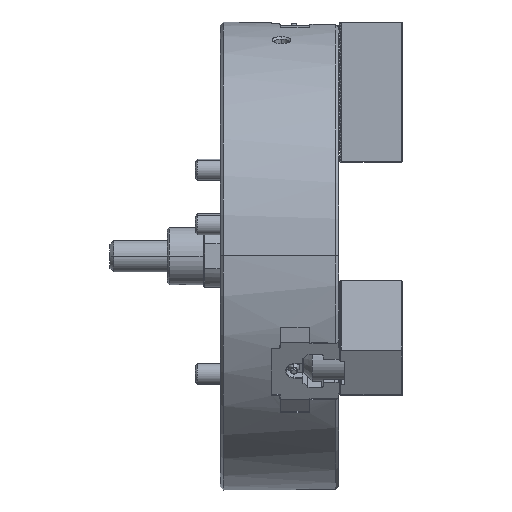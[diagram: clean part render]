
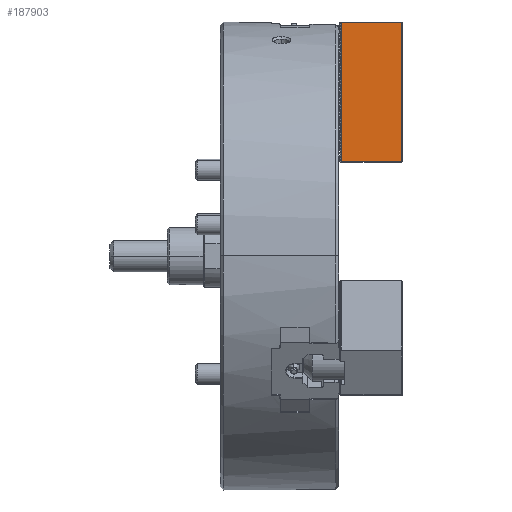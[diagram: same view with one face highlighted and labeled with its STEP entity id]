
A CAD part, top view. The second image highlights one B-rep face of the part: STEP entity #187903.
In plain terms, the highlighted planar face has unit normal (0, 0, 1).
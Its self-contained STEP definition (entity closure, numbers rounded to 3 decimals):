
#3860 = EDGE_CURVE ( 'NONE', #84470, #108914, #195415, .T. ) ;
#7177 = EDGE_CURVE ( 'NONE', #200740, #108914, #84571, .T. ) ;
#12707 = CARTESIAN_POINT ( 'NONE',  ( 60., 0.6, 25. ) ) ;
#19554 = VECTOR ( 'NONE', #165027, 1000. ) ;
#25130 = CARTESIAN_POINT ( 'NONE',  ( 59.4, 134.4, 25. ) ) ;
#48491 = VECTOR ( 'NONE', #151584, 1000. ) ;
#56232 = VERTEX_POINT ( 'NONE', #77486 ) ;
#67787 = VECTOR ( 'NONE', #99001, 1000. ) ;
#70740 = EDGE_CURVE ( 'NONE', #56232, #200740, #180763, .T. ) ;
#76709 = DIRECTION ( 'NONE',  ( 0., 1., 0. ) ) ;
#77486 = CARTESIAN_POINT ( 'NONE',  ( 59.4, 0.6, 25. ) ) ;
#84470 = VERTEX_POINT ( 'NONE', #115502 ) ;
#84571 = LINE ( 'NONE', #132750, #48491 ) ;
#88185 = VECTOR ( 'NONE', #117183, 1000. ) ;
#90632 = ORIENTED_EDGE ( 'NONE', *, *, #3860, .F. ) ;
#92439 = FACE_OUTER_BOUND ( 'NONE', #156207, .T. ) ;
#97982 = CARTESIAN_POINT ( 'NONE',  ( 1.4, 0., 25. ) ) ;
#99001 = DIRECTION ( 'NONE',  ( 0., 1., 0. ) ) ;
#101100 = CARTESIAN_POINT ( 'NONE',  ( 59.4, 134.4, 25. ) ) ;
#108914 = VERTEX_POINT ( 'NONE', #109639 ) ;
#109639 = CARTESIAN_POINT ( 'NONE',  ( 1.4, 134.4, 25. ) ) ;
#115502 = CARTESIAN_POINT ( 'NONE',  ( 1.4, 0.6, 25. ) ) ;
#117183 = DIRECTION ( 'NONE',  ( -1., 0., 0. ) ) ;
#120794 = ORIENTED_EDGE ( 'NONE', *, *, #188496, .F. ) ;
#132750 = CARTESIAN_POINT ( 'NONE',  ( 60., 134.4, 25. ) ) ;
#151584 = DIRECTION ( 'NONE',  ( -1., 0., 0. ) ) ;
#156207 = EDGE_LOOP ( 'NONE', ( #120794, #160322, #181833, #90632 ) ) ;
#159415 = PLANE ( 'NONE',  #195134 ) ;
#160322 = ORIENTED_EDGE ( 'NONE', *, *, #70740, .T. ) ;
#165027 = DIRECTION ( 'NONE',  ( 0., 1., 0. ) ) ;
#167463 = CARTESIAN_POINT ( 'NONE',  ( 60., 0.6, 25. ) ) ;
#180763 = LINE ( 'NONE', #101100, #19554 ) ;
#181833 = ORIENTED_EDGE ( 'NONE', *, *, #7177, .T. ) ;
#187903 = ADVANCED_FACE ( 'NONE', ( #92439 ), #159415, .F. ) ;
#188496 = EDGE_CURVE ( 'NONE', #56232, #84470, #196834, .T. ) ;
#190900 = DIRECTION ( 'NONE',  ( 0., 0., -1. ) ) ;
#195134 = AXIS2_PLACEMENT_3D ( 'NONE', #12707, #190900, #76709 ) ;
#195415 = LINE ( 'NONE', #97982, #67787 ) ;
#196834 = LINE ( 'NONE', #167463, #88185 ) ;
#200740 = VERTEX_POINT ( 'NONE', #25130 ) ;
